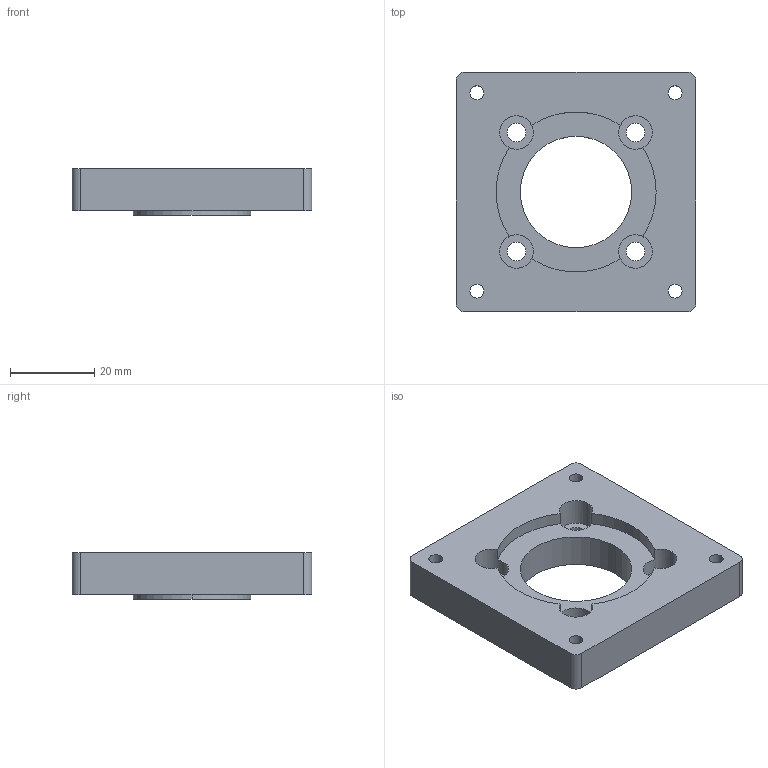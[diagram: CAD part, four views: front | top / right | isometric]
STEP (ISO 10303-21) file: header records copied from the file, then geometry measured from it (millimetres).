
FILE_DESCRIPTION (( 'STEP AP214' ), '1' );
FILE_NAME ('KK-60-F4 57²½½øµç»ú°å.STEP', '2021-05-29T07:30:18', ( '' ), ( '' ), 'SwSTEP 2.0', 'SolidWorks 2017', '' );
FILE_SCHEMA (( 'AUTOMOTIVE_DESIGN' ));
Length unit declared in the file: millimetre
Products named in the file (1): KK-60-F4 57祭輛萇儂啣
Bounding box: 57 x 57 x 11 mm (x, y, z)
Volume: 23552.7 mm3; surface area: 9612.1 mm2
Topology: 1 solids, 1 shells, 49 faces, 135 edges, 90 vertices
Faces by surface type: cylinder 37, plane 12
Entity records: 1769 total; most frequent: DIRECTION 317, CARTESIAN_POINT 275, ORIENTED_EDGE 270, EDGE_CURVE 135, AXIS2_PLACEMENT_3D 132, VERTEX_POINT 90, CIRCLE 82, EDGE_LOOP 69
